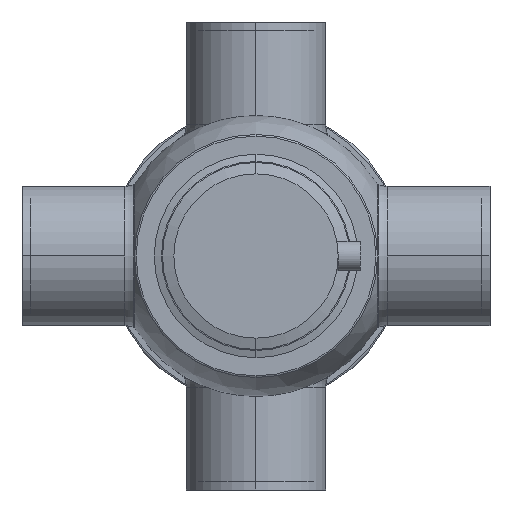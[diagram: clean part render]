
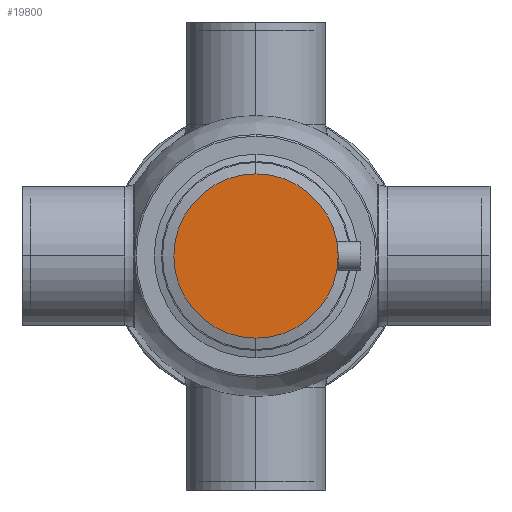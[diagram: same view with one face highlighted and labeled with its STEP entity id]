
A CAD part, front view. The second image highlights one B-rep face of the part: STEP entity #19800.
In plain terms, the highlighted planar face has unit normal (0, -1, 0) as drawn and (0, 0, -1) by its records, which use the part's own axes.
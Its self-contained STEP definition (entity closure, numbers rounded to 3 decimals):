
#11030=CARTESIAN_POINT('',(-50.,34.1,-20.));
#11040=VERTEX_POINT('',#11030);
#11220=CARTESIAN_POINT('',(50.,34.1,-20.));
#11230=VERTEX_POINT('',#11220);
#11260=CARTESIAN_POINT('',(0.,34.1,-20.));
#11270=DIRECTION('',(0.,0.,1.));
#11280=DIRECTION('',(1.,0.,0.));
#11290=AXIS2_PLACEMENT_3D('',#11260,#11270,#11280);
#11300=CIRCLE('',#11290,50.);
#11310=EDGE_CURVE('',#11040,#11230,#11300,.T.);
#19700=CARTESIAN_POINT('',(-48.25,34.1,-20.));
#19710=DIRECTION('',(0.,0.,-1.));
#19720=DIRECTION('',(-1.,0.,0.));
#19730=AXIS2_PLACEMENT_3D('',#19700,#19710,#19720);
#19740=PLANE('',#19730);
#19750=EDGE_CURVE('',#11230,#11040,#11300,.T.);
#19760=ORIENTED_EDGE('',*,*,#19750,.F.);
#19770=ORIENTED_EDGE('',*,*,#11310,.F.);
#19780=EDGE_LOOP('',(#19770,#19760));
#19790=FACE_OUTER_BOUND('',#19780,.T.);
#19800=ADVANCED_FACE('',(#19790),#19740,.T.);
